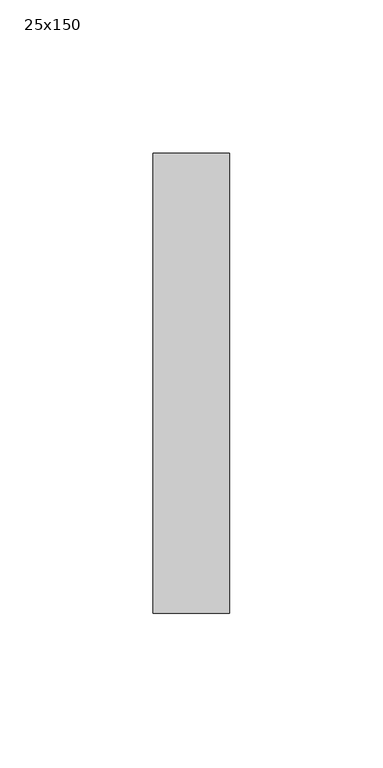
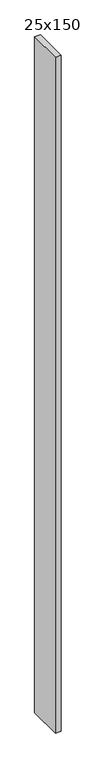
"""IFC4 building model written with IfcOpenShell, lengths in millimetres: member geometry, 長方形のマリオン : 25x150."""

from ifc_helpers import new_model, si_unit, frame, origin, place, context, project, spatial, polyline, outline, extrude, source, transform, mapped, element, save


def member_25x150_c2142158(model_context):
    return source(origin(), model_context, "Body", "SweptSolid", [
        extrude(outline(polyline([(0.0, 75.0), (0.0, -75.0), (-25.0, -75.0), (-25.0, 75.0), (0.0, 75.0)])), frame((0.0, 0.0, -3000.0), z_axis=(0.0, 0.0, 1.0), x_axis=(1.0, 0.0, 0.0)), (0.0, 0.0, 1.0), 3000.0),
    ])


if __name__ == "__main__":
    model = new_model("IFC4")
    model_context = context("Model", 3, world=origin())
    ifc_project = project(units=[si_unit("LENGTHUNIT", "METRE", prefix="MILLI")], contexts=[model_context])
    site = spatial("IfcSite", under=ifc_project)
    building = spatial("IfcBuilding", under=site)
    placement = place(None, origin())
    member_25x150_shape = member_25x150_c2142158(model_context)
    element("IfcMember", 1, ObjectType="長方形のマリオン : 25x150", at=placement, inside=building, context=model_context, shape_type="MappedRepresentation", body=[
        mapped(member_25x150_shape, transform((0.0, 0.0, 0.0), x_axis=(1.0, 0.0, 0.0), y_axis=(0.0, 1.0, 0.0), z_axis=(0.0, 0.0, 1.0))),
    ])
    save(model, "model.ifc")
